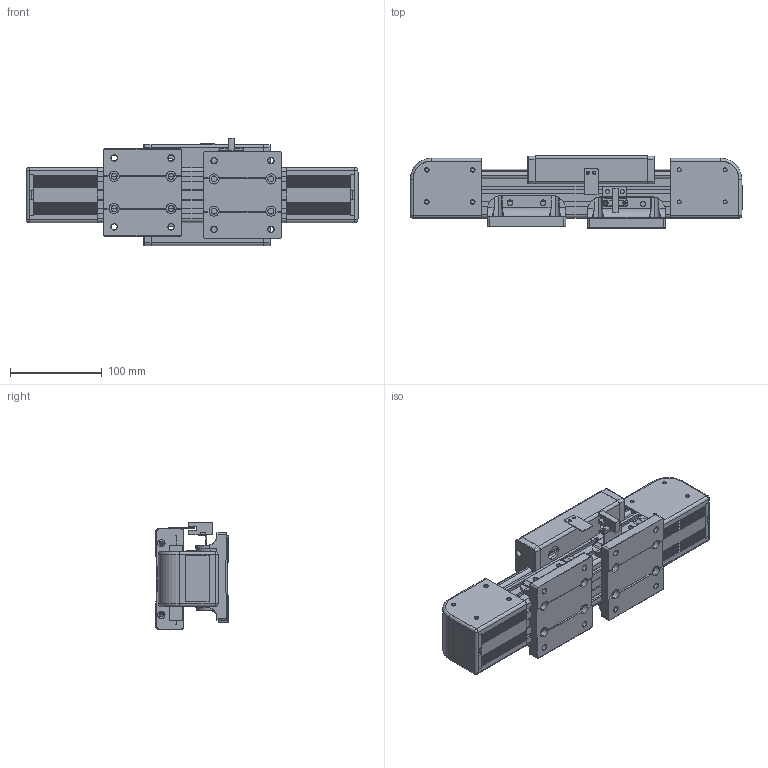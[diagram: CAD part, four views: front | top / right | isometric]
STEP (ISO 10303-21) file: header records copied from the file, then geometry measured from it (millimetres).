
FILE_DESCRIPTION (( 'STEP AP214' ), '1' );
FILE_NAME ('CF60-D-50-FW.STEP', '2020-01-15T07:14:22', ( '微软用户' ), ( '微软中国' ), 'SwSTEP 2.0', 'SolidWorks 2016', '' );
FILE_SCHEMA (( 'AUTOMOTIVE_DESIGN' ));
Length unit declared in the file: millimetre
Products named in the file (13): 嫖萇羲壽; 嫖萇羲壽嘐隅え; P60肮祭湍嫖萇結啣; 8MM嫖粣絳寢-50; 60肮祭湍倰第-50; 菁釱; P60同步带导轨润滑棉安装块右; P60同步带导轨润滑棉安装块; P60肮祭湍坶諶; p60同步带滑块最终版; P60粣創釱傷裔; P60同步带轴承座初稿; CF60-D-50-FW
Assembly tree (19 placements, depth 2):
  CF60-D-50-FW
    P60同步带轴承座初稿  x2
    P60粣創釱傷裔  x2
    p60同步带滑块最终版
    P60肮祭湍坶諶  x2
    P60同步带导轨润滑棉安装块  x2
    P60同步带导轨润滑棉安装块右  x2
    菁釱  x2
    60肮祭湍倰第-50
    8MM嫖粣絳寢-50  x2
    P60肮祭湍嫖萇結啣
    嫖萇羲壽嘐隅え
    嫖萇羲壽
Bounding box: 361.6 x 78.7 x 116.6 mm (x, y, z)
Volume: 1230783.3 mm3; surface area: 366524.4 mm2
Topology: 19 solids, 19 shells, 1358 faces, 3668 edges, 2384 vertices
Faces by surface type: cylinder 620, plane 574, torus 76, bspline 36, cone 32, sphere 20
Entity records: 30354 total; most frequent: CARTESIAN_POINT 7800, DIRECTION 4636, ORIENTED_EDGE 4584, EDGE_CURVE 2292, AXIS2_PLACEMENT_3D 1650, VERTEX_POINT 1506, VECTOR 1336, LINE 1336
